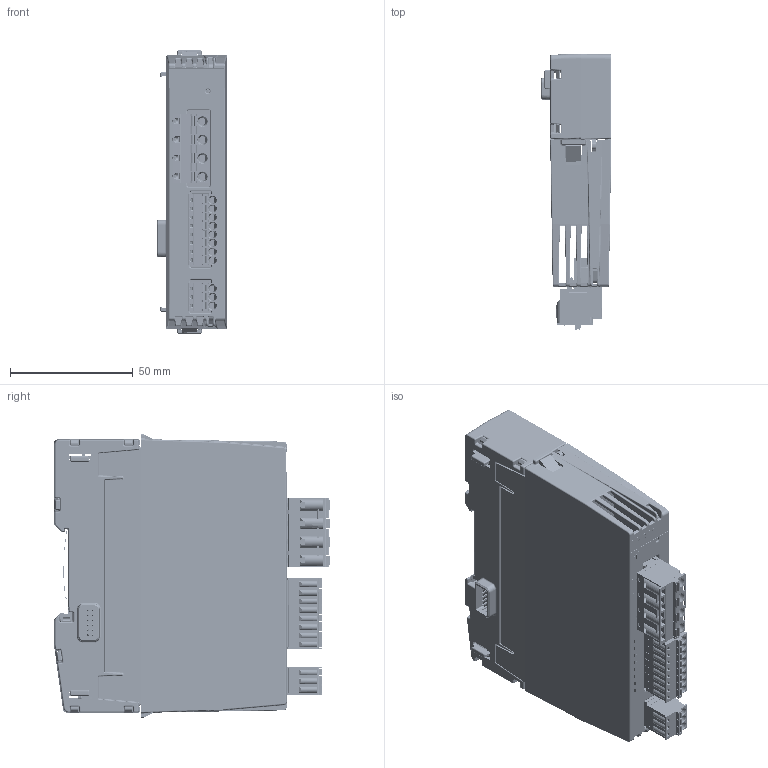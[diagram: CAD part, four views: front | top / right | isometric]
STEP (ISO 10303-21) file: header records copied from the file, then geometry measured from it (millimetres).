
FILE_DESCRIPTION(/* description */ (''),/* implementation_level */ '2;1');
FILE_NAME(/* name */ 'C:\Users\Public\Documents\Autodesk\Inventor 2023\PM03C_Simplified+BackBB21C.stp',/* time_stamp */ '2024-10-18T22:13:41+02:00',/* author */ ('shoma'),/* organization */ (''),/* preprocessor_version */ 'ST-DEVELOPER v19',/* originating_system */ 'Autodesk Inventor 2023',/* authorisation */ '');
FILE_SCHEMA (('AUTOMOTIVE_DESIGN { 1 0 10303 214 3 1 1 }'));
Products named in the file (1): PM03C_Simplified+BackBB21C
Bounding box: 28.9 x 112.6 x 115.5 mm (x, y, z)
Volume: 135859.4 mm3; surface area: 89793.3 mm2
Topology: 8 solids, 43 shells, 8439 faces, 22583 edges, 14189 vertices
Faces by surface type: plane 5440, cylinder 2072, bspline 587, sphere 163, cone 135, torus 42
Full cylindrical faces by diameter (mm): 0.296 x2, 0.3 x36, 0.434 x1, 0.457 x2, 0.7 x36, 0.8 x6, 0.85 x24, 0.9 x8, 1.17 x11, 1.25 x11, 1.3 x11, 1.4 x8, 1.5 x4, 1.6 x9, 2.35 x2, 2.5 x1, 2.8 x3, 3 x5, 3.1 x11, 3.25 x2, 4 x4
Entity records: 286133 total; most frequent: CARTESIAN_POINT 67107, ORIENTED_EDGE 44820, DIRECTION 42397, EDGE_CURVE 22410, LINE 16369, VECTOR 16369, VERTEX_POINT 14185, AXIS2_PLACEMENT_3D 13014
